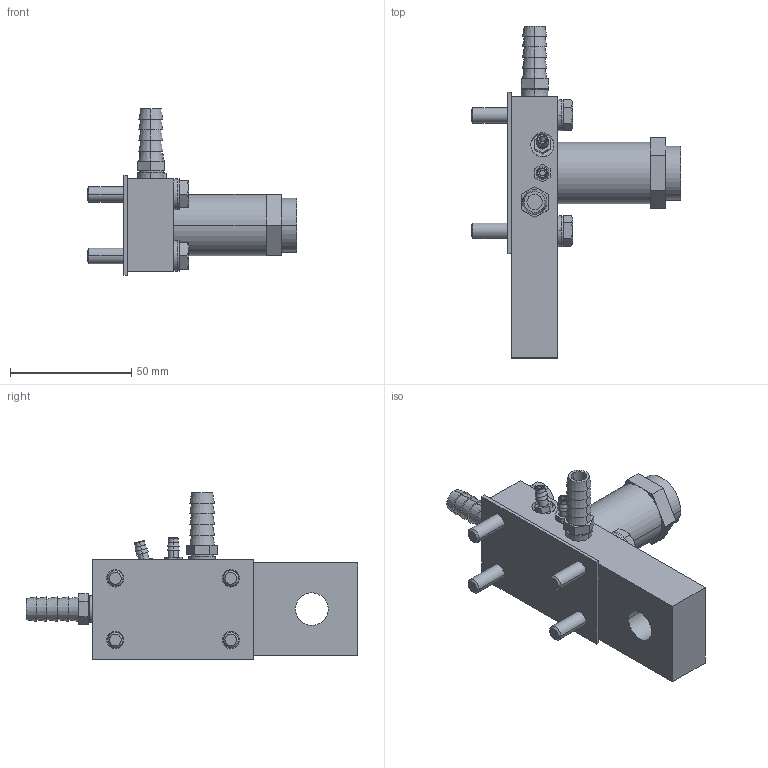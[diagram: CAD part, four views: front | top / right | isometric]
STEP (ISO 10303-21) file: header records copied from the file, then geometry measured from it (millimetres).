
FILE_DESCRIPTION((''),'2;1');
FILE_NAME('UHR2_ASM','2017-08-24T',('jennifer.elliott'),('CenterLine (Windsor) Ltd - Automation Components Division'),'PRO/ENGINEER BY PARAMETRIC TECHNOLOGY CORPORATION, 2015030','PRO/ENGINEER BY PARAMETRIC TECHNOLOGY CORPORATION, 2015030','');
FILE_SCHEMA(('AUTOMOTIVE_DESIGN { 1 0 10303 214 1 1 1 1 }'));
Length unit declared in the file: inch
Products named in the file (22): PRT0255; PRT0256; PRT0257; PRT0258; PRT0259; PRT0260; PRT0261; PRT0262; PRT0263; PRT0264; PRT0265; PRT0266; PRT0267; PRT0268; PRT0269; PRT0270; PRT0271; PRT0272; PRT0273; PRT0274; TMP_DWG-3DSOLID_56; UHR2_ASM
Assembly tree (21 placements, depth 2):
  UHR2_ASM
    PRT0255
    PRT0256
    PRT0257
    PRT0258
    PRT0259
    PRT0260
    PRT0261
    PRT0262
    PRT0263
    PRT0264
    PRT0265
    PRT0266
    PRT0267
    PRT0268
    PRT0269
    PRT0270
    PRT0271
    PRT0272
    PRT0273
    PRT0274
    TMP_DWG-3DSOLID_56
Bounding box: 86.55 x 136.91 x 68.64 mm (x, y, z)
Volume: 111279.7 mm3; surface area: 41485 mm2
Topology: 21 solids, 21 shells, 300 faces, 642 edges, 414 vertices
Faces by surface type: plane 134, cylinder 94, cone 64, torus 8
Entity records: 9857 total; most frequent: CARTESIAN_POINT 1762, DIRECTION 1572, ORIENTED_EDGE 1284, EDGE_CURVE 642, AXIS2_PLACEMENT_3D 639, VERTEX_POINT 414, EDGE_LOOP 372, FACE_OUTER_BOUND 300
